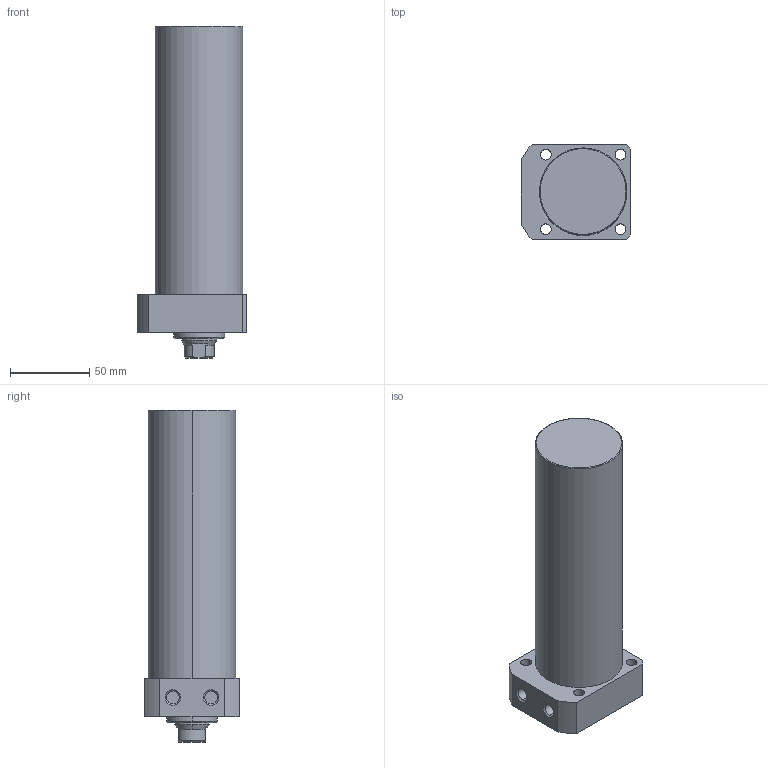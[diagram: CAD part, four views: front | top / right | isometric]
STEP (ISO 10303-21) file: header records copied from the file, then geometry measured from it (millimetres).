
FILE_DESCRIPTION (( 'STEP AP203' ), '1' );
FILE_NAME ('CLLR-055CA-140.STEP', '2019-12-17T11:44:21', ( '' ), ( '' ), 'SwSTEP 2.0', 'SolidWorks 2015', '' );
FILE_SCHEMA (( 'CONFIG_CONTROL_DESIGN' ));
Length unit declared in the file: millimetre
Products named in the file (1): CLLR-055CA-140
Bounding box: 69 x 60 x 209 mm (x, y, z)
Volume: 499142.7 mm3; surface area: 47488.1 mm2
Topology: 1 solids, 1 shells, 65 faces, 150 edges, 93 vertices
Faces by surface type: cylinder 29, plane 19, cone 15, torus 2
Entity records: 1959 total; most frequent: DIRECTION 348, CARTESIAN_POINT 347, ORIENTED_EDGE 296, EDGE_CURVE 148, AXIS2_PLACEMENT_3D 142, VERTEX_POINT 93, EDGE_LOOP 81, CIRCLE 76
